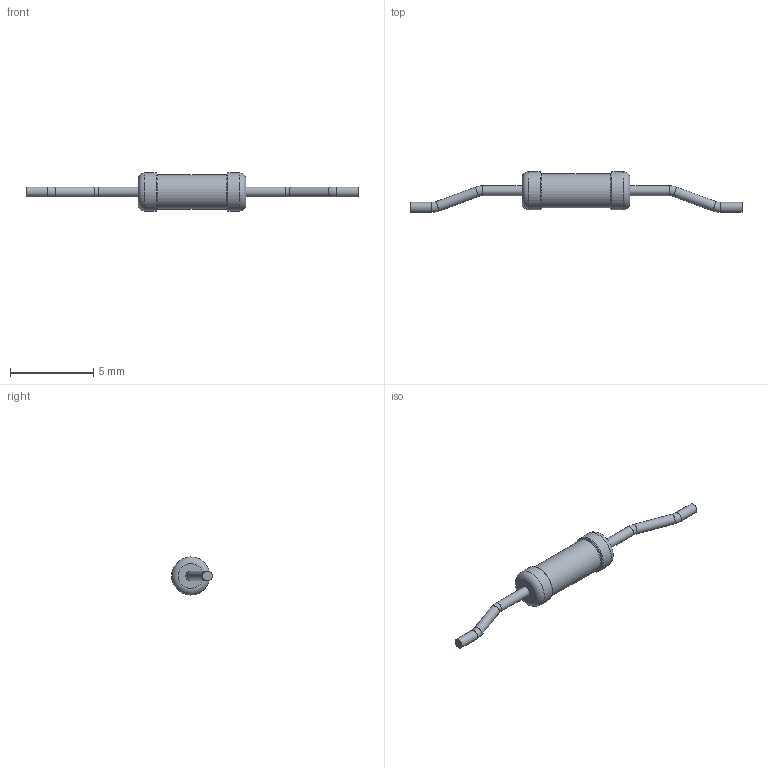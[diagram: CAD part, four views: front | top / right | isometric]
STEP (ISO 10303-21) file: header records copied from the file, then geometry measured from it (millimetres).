
FILE_DESCRIPTION(('STEP AP203'), '1');
FILE_NAME('Ñ2-29Â-0,062(3)', '', ('UNSPECIFIED'), ('UNSPECIFIED'), 'ASCON STEP Converter 1.6', 'ASCON Math Kernel', '');
FILE_SCHEMA(('CONFIG_CONTROL_DESIGN'));
Length unit declared in the file: millimetre
Bounding box: 20 x 2.45 x 2.3 mm (x, y, z)
Volume: 26.9 mm3; surface area: 76.6 mm2
Topology: 1 solids, 1 shells, 25 faces, 43 edges, 24 vertices
Faces by surface type: torus 10, cylinder 9, plane 6
Full cylindrical faces by diameter (mm): 0.6 x6, 2.057 x1, 2.3 x2
Entity records: 738 total; most frequent: DIRECTION 100, CARTESIAN_POINT 74, AXIS2_PLACEMENT_3D 50, EDGE_LOOP 48, ORIENTED_EDGE 48, FACE_OUTER_BOUND 38, COLOUR_RGB 26, FILL_AREA_STYLE_COLOUR 26
